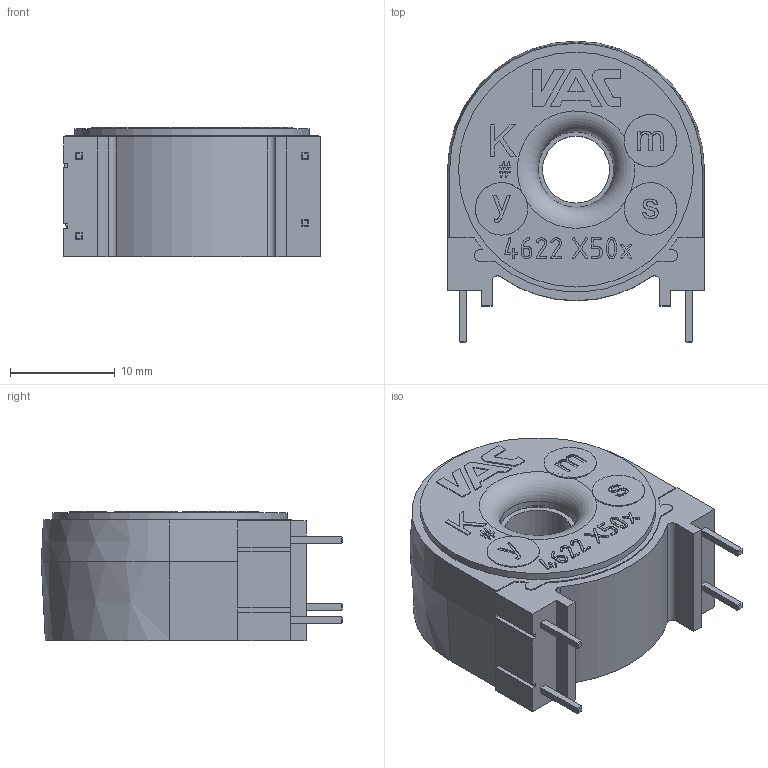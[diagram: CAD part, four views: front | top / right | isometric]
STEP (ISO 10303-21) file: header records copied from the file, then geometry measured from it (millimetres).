
FILE_DESCRIPTION(/* description */ (''),/* implementation_level */ '2;1');
FILE_NAME(/* name */ '4622_X50x zusbau_Vereinfachen_1.stp',/* time_stamp */ '2024-01-25T15:38:59+01:00',/* author */ ('de011266'),/* organization */ (''),/* preprocessor_version */ 'ST-DEVELOPER v19.2',/* originating_system */ 'Autodesk Inventor 2024',/* authorisation */ '');
FILE_SCHEMA (('AUTOMOTIVE_DESIGN { 1 0 10303 214 3 1 1 }'));
Length unit declared in the file: millimetre
Products named in the file (1): 4622_X50x zusbau_Vereinfachen_1
Bounding box: 24.5 x 28.75 x 12.3 mm (x, y, z)
Volume: 5737.3 mm3; surface area: 2418.6 mm2
Topology: 1 solids, 1 shells, 404 faces, 1084 edges, 711 vertices
Faces by surface type: plane 246, bspline 133, cylinder 21, torus 2, cone 2
Full cylindrical faces by diameter (mm): 5 x3, 6.38 x1, 7.2 x1, 7.4 x1, 7.6 x1, 8 x1, 22.4 x1
Entity records: 13283 total; most frequent: CARTESIAN_POINT 3561, ORIENTED_EDGE 2168, DIRECTION 1424, EDGE_CURVE 1084, LINE 756, VECTOR 756, VERTEX_POINT 711, EDGE_LOOP 435
